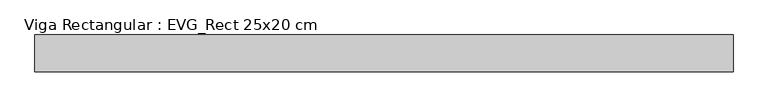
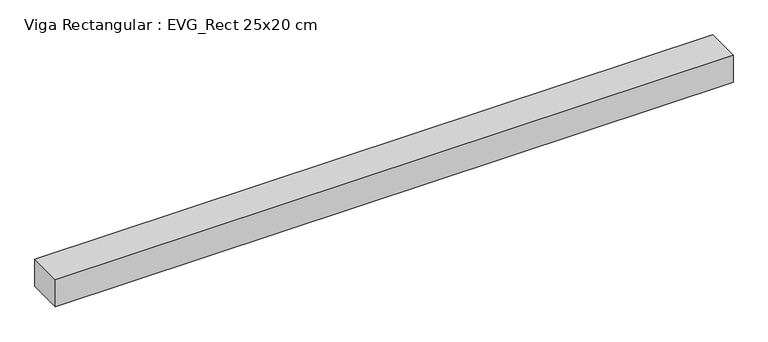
"""IFC4 building model written with IfcOpenShell, lengths in millimetres: beam geometry, Viga Rectangular : EVG_Rect 25x20 cm."""

from ifc_helpers import new_model, si_unit, frame, origin, place, context, project, spatial, polyline, outline, extrude, source, transform, mapped, element, save


def viga_rectangular_evg_rect_25x20_cm_ae20498b(model_context):
    return source(origin(), model_context, "Body", "SweptSolid", [
        extrude(outline(polyline([(2375.0, 125.0), (2375.0, -125.0), (-2375.0, -125.0), (-2375.0, 125.0), (2375.0, 125.0)])), frame((0.0, 0.0, -200.0), z_axis=(0.0, 0.0, 1.0), x_axis=(1.0, 0.0, 0.0)), (0.0, 0.0, 1.0), 200.0),
    ])


if __name__ == "__main__":
    model = new_model("IFC4")
    model_context = context("Model", 3, world=origin())
    ifc_project = project(units=[si_unit("LENGTHUNIT", "METRE", prefix="MILLI")], contexts=[model_context])
    site = spatial("IfcSite", under=ifc_project)
    building = spatial("IfcBuilding", under=site)
    placement = place(None, origin())
    viga_rectangular_evg_rect_25x20_cm_shape = viga_rectangular_evg_rect_25x20_cm_ae20498b(model_context)
    element("IfcBeam", 1, ObjectType="Viga Rectangular : EVG_Rect 25x20 cm", at=placement, inside=building, context=model_context, shape_type="MappedRepresentation", body=[
        mapped(viga_rectangular_evg_rect_25x20_cm_shape, transform((0.0, 0.0, 0.0), x_axis=(1.0, 0.0, 0.0), y_axis=(0.0, 1.0, 0.0), z_axis=(0.0, 0.0, 1.0))),
    ])
    save(model, "model.ifc")
